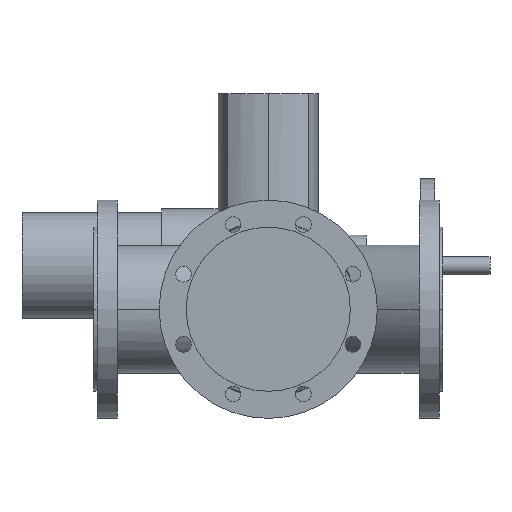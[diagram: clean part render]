
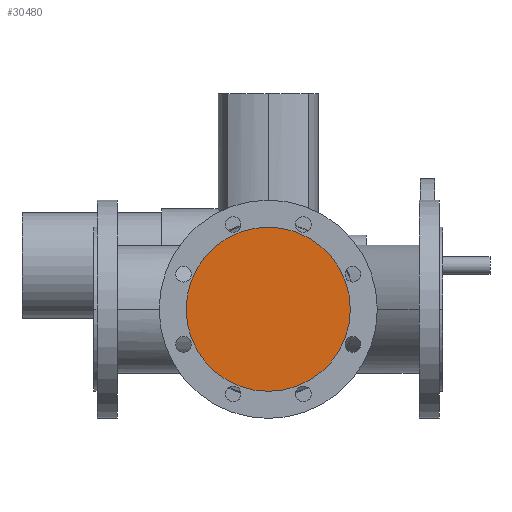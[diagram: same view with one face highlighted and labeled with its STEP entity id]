
A CAD part, front view. The second image highlights one B-rep face of the part: STEP entity #30480.
In plain terms, the highlighted planar face has unit normal (0, -1, 0).
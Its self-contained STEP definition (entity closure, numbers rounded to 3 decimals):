
#6070=CARTESIAN_POINT('',(294.,-200.,0.));
#6080=VERTEX_POINT('',#6070);
#6110=CARTESIAN_POINT('',(200.,-200.,0.));
#6120=DIRECTION('',(0.,1.,0.));
#6130=DIRECTION('',(1.,0.,0.));
#6140=AXIS2_PLACEMENT_3D('',#6110,#6120,#6130);
#6150=CIRCLE('',#6140,94.);
#6160=CARTESIAN_POINT('',(106.,-200.,0.));
#6170=VERTEX_POINT('',#6160);
#6180=EDGE_CURVE('',#6170,#6080,#6150,.T.);
#30380=CARTESIAN_POINT('',(247.,-200.,0.));
#30390=DIRECTION('',(0.,-1.,0.));
#30400=DIRECTION('',(-1.,0.,0.));
#30410=AXIS2_PLACEMENT_3D('',#30380,#30390,#30400);
#30420=PLANE('',#30410);
#30430=ORIENTED_EDGE('',*,*,#6180,.F.);
#30440=EDGE_CURVE('',#6080,#6170,#6150,.T.);
#30450=ORIENTED_EDGE('',*,*,#30440,.F.);
#30460=EDGE_LOOP('',(#30450,#30430));
#30470=FACE_OUTER_BOUND('',#30460,.T.);
#30480=ADVANCED_FACE('',(#30470),#30420,.T.);
